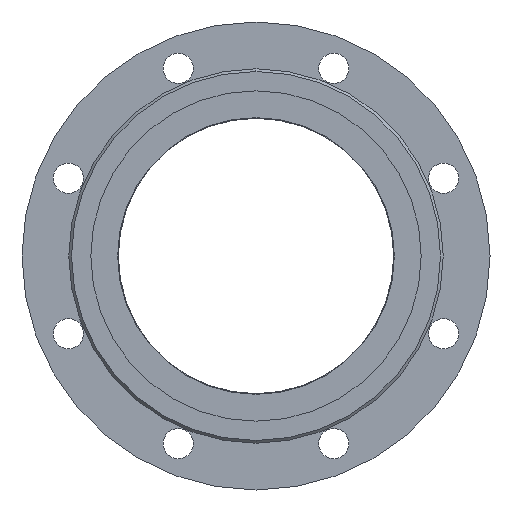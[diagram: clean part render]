
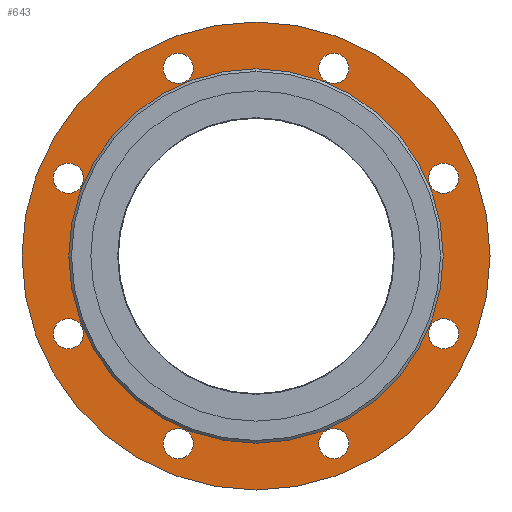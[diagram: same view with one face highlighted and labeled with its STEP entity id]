
A CAD part, left-side view. The second image highlights one B-rep face of the part: STEP entity #643.
In plain terms, the highlighted planar face has unit normal (-1, 0, 0).
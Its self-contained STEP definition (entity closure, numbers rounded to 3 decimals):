
#643=ADVANCED_FACE('',(#1273,#1274,#1275,#1276,#1277,#1278,#1279,#1280,#1281,#1282),#1283,.F.);
#1273=FACE_BOUND('',#2105,.T.);
#1274=FACE_BOUND('',#2106,.T.);
#1275=FACE_BOUND('',#2107,.T.);
#1276=FACE_BOUND('',#2108,.T.);
#1277=FACE_BOUND('',#2109,.T.);
#1278=FACE_BOUND('',#2110,.T.);
#1279=FACE_BOUND('',#2111,.T.);
#1280=FACE_BOUND('',#2112,.T.);
#1281=FACE_BOUND('',#2113,.T.);
#1282=FACE_OUTER_BOUND('',#2114,.T.);
#1283=PLANE('',#2115);
#2105=EDGE_LOOP('',(#3120,#3121));
#2106=EDGE_LOOP('',(#3122,#3123));
#2107=EDGE_LOOP('',(#3124,#3125));
#2108=EDGE_LOOP('',(#3126,#3127));
#2109=EDGE_LOOP('',(#3128,#3129));
#2110=EDGE_LOOP('',(#3130,#3131));
#2111=EDGE_LOOP('',(#3132,#3133));
#2112=EDGE_LOOP('',(#3134,#3135));
#2113=EDGE_LOOP('',(#3136,#3137));
#2114=EDGE_LOOP('',(#3138,#3139));
#2115=AXIS2_PLACEMENT_3D('',#3140,#3141,#3142);
#3120=ORIENTED_EDGE('',*,*,#4583,.T.);
#3121=ORIENTED_EDGE('',*,*,#4663,.T.);
#3122=ORIENTED_EDGE('',*,*,#4561,.T.);
#3123=ORIENTED_EDGE('',*,*,#4396,.T.);
#3124=ORIENTED_EDGE('',*,*,#4664,.T.);
#3125=ORIENTED_EDGE('',*,*,#4487,.T.);
#3126=ORIENTED_EDGE('',*,*,#4665,.T.);
#3127=ORIENTED_EDGE('',*,*,#4624,.T.);
#3128=ORIENTED_EDGE('',*,*,#4666,.T.);
#3129=ORIENTED_EDGE('',*,*,#4667,.T.);
#3130=ORIENTED_EDGE('',*,*,#4668,.T.);
#3131=ORIENTED_EDGE('',*,*,#4669,.T.);
#3132=ORIENTED_EDGE('',*,*,#4670,.T.);
#3133=ORIENTED_EDGE('',*,*,#4509,.T.);
#3134=ORIENTED_EDGE('',*,*,#4380,.T.);
#3135=ORIENTED_EDGE('',*,*,#4408,.T.);
#3136=ORIENTED_EDGE('',*,*,#4454,.T.);
#3137=ORIENTED_EDGE('',*,*,#4671,.T.);
#3138=ORIENTED_EDGE('',*,*,#4619,.F.);
#3139=ORIENTED_EDGE('',*,*,#4672,.F.);
#3140=CARTESIAN_POINT('',(5.0,0.0,0.));
#3141=DIRECTION('',(1.0,0.0,0.));
#3142=DIRECTION('',(0.,0.0,-1.0));
#4380=EDGE_CURVE('',#5089,#5093,#5095,.T.);
#4396=EDGE_CURVE('',#5123,#5121,#5124,.T.);
#4408=EDGE_CURVE('',#5093,#5089,#5141,.T.);
#4454=EDGE_CURVE('',#5214,#5218,#5220,.T.);
#4487=EDGE_CURVE('',#5275,#5273,#5276,.T.);
#4509=EDGE_CURVE('',#5315,#5313,#5316,.T.);
#4561=EDGE_CURVE('',#5121,#5123,#5397,.T.);
#4583=EDGE_CURVE('',#5434,#5432,#5435,.T.);
#4619=EDGE_CURVE('',#5488,#5491,#5492,.T.);
#4624=EDGE_CURVE('',#5500,#5498,#5501,.T.);
#4663=EDGE_CURVE('',#5432,#5434,#5555,.T.);
#4664=EDGE_CURVE('',#5273,#5275,#5556,.T.);
#4665=EDGE_CURVE('',#5498,#5500,#5557,.T.);
#4666=EDGE_CURVE('',#5558,#5559,#5560,.T.);
#4667=EDGE_CURVE('',#5559,#5558,#5561,.T.);
#4668=EDGE_CURVE('',#5562,#5563,#5564,.T.);
#4669=EDGE_CURVE('',#5563,#5562,#5565,.T.);
#4670=EDGE_CURVE('',#5313,#5315,#5566,.T.);
#4671=EDGE_CURVE('',#5218,#5214,#5567,.T.);
#4672=EDGE_CURVE('',#5491,#5488,#5568,.T.);
#5089=VERTEX_POINT('',#6096);
#5093=VERTEX_POINT('',#6101);
#5095=CIRCLE('',#6104,11.0);
#5121=VERTEX_POINT('',#6134);
#5123=VERTEX_POINT('',#6137);
#5124=CIRCLE('',#6138,11.0);
#5141=CIRCLE('',#6158,11.0);
#5214=VERTEX_POINT('',#6242);
#5218=VERTEX_POINT('',#6247);
#5220=CIRCLE('',#6250,11.0);
#5273=VERTEX_POINT('',#6317);
#5275=VERTEX_POINT('',#6320);
#5276=CIRCLE('',#6321,11.0);
#5313=VERTEX_POINT('',#6367);
#5315=VERTEX_POINT('',#6370);
#5316=CIRCLE('',#6371,11.0);
#5397=CIRCLE('',#6473,11.0);
#5432=VERTEX_POINT('',#6515);
#5434=VERTEX_POINT('',#6518);
#5435=CIRCLE('',#6519,100.0);
#5488=VERTEX_POINT('',#6584);
#5491=VERTEX_POINT('',#6588);
#5492=CIRCLE('',#6589,170.0);
#5498=VERTEX_POINT('',#6596);
#5500=VERTEX_POINT('',#6599);
#5501=CIRCLE('',#6600,11.0);
#5555=CIRCLE('',#6672,100.0);
#5556=CIRCLE('',#6673,11.0);
#5557=CIRCLE('',#6674,11.0);
#5558=VERTEX_POINT('',#6675);
#5559=VERTEX_POINT('',#6676);
#5560=CIRCLE('',#6677,11.0);
#5561=CIRCLE('',#6678,11.0);
#5562=VERTEX_POINT('',#6679);
#5563=VERTEX_POINT('',#6680);
#5564=CIRCLE('',#6681,11.0);
#5565=CIRCLE('',#6682,11.0);
#5566=CIRCLE('',#6683,11.0);
#5567=CIRCLE('',#6684,11.0);
#5568=CIRCLE('',#6685,170.0);
#6096=CARTESIAN_POINT('',(5.0,-136.272,-67.446));
#6101=CARTESIAN_POINT('',(5.0,-136.272,-45.446));
#6104=AXIS2_PLACEMENT_3D('',#7307,#7308,#7309);
#6134=CARTESIAN_POINT('',(5.0,136.272,45.446));
#6137=CARTESIAN_POINT('',(5.,136.272,67.446));
#6138=AXIS2_PLACEMENT_3D('',#7333,#7334,#7335);
#6158=AXIS2_PLACEMENT_3D('',#7351,#7352,#7353);
#6242=CARTESIAN_POINT('',(5.0,-56.446,-147.272));
#6247=CARTESIAN_POINT('',(5.,-56.446,-125.272));
#6250=AXIS2_PLACEMENT_3D('',#7433,#7434,#7435);
#6317=CARTESIAN_POINT('',(5.0,56.446,125.272));
#6320=CARTESIAN_POINT('',(5.,56.446,147.272));
#6321=AXIS2_PLACEMENT_3D('',#7472,#7473,#7474);
#6367=CARTESIAN_POINT('',(5.0,56.446,-147.272));
#6370=CARTESIAN_POINT('',(5.,56.446,-125.272));
#6371=AXIS2_PLACEMENT_3D('',#7506,#7507,#7508);
#6473=AXIS2_PLACEMENT_3D('',#7578,#7579,#7580);
#6515=CARTESIAN_POINT('',(5.,0.,-100.0));
#6518=CARTESIAN_POINT('',(5.,0.,100.0));
#6519=AXIS2_PLACEMENT_3D('',#7613,#7614,#7615);
#6584=CARTESIAN_POINT('',(5.,0.0,-170.0));
#6588=CARTESIAN_POINT('',(5.,0.,170.0));
#6589=AXIS2_PLACEMENT_3D('',#7671,#7672,#7673);
#6596=CARTESIAN_POINT('',(5.0,-136.272,45.446));
#6599=CARTESIAN_POINT('',(5.,-136.272,67.446));
#6600=AXIS2_PLACEMENT_3D('',#7679,#7680,#7681);
#6672=AXIS2_PLACEMENT_3D('',#7730,#7731,#7732);
#6673=AXIS2_PLACEMENT_3D('',#7733,#7734,#7735);
#6674=AXIS2_PLACEMENT_3D('',#7736,#7737,#7738);
#6675=CARTESIAN_POINT('',(5.0,-56.446,125.272));
#6676=CARTESIAN_POINT('',(5.,-56.446,147.272));
#6677=AXIS2_PLACEMENT_3D('',#7739,#7740,#7741);
#6678=AXIS2_PLACEMENT_3D('',#7742,#7743,#7744);
#6679=CARTESIAN_POINT('',(5.0,136.272,-67.446));
#6680=CARTESIAN_POINT('',(5.0,136.272,-45.446));
#6681=AXIS2_PLACEMENT_3D('',#7745,#7746,#7747);
#6682=AXIS2_PLACEMENT_3D('',#7748,#7749,#7750);
#6683=AXIS2_PLACEMENT_3D('',#7751,#7752,#7753);
#6684=AXIS2_PLACEMENT_3D('',#7754,#7755,#7756);
#6685=AXIS2_PLACEMENT_3D('',#7757,#7758,#7759);
#7307=CARTESIAN_POINT('',(5.0,-136.272,-56.446));
#7308=DIRECTION('',(1.0,0.0,0.));
#7309=DIRECTION('',(0.,0.0,-1.0));
#7333=CARTESIAN_POINT('',(5.0,136.272,56.446));
#7334=DIRECTION('',(1.0,0.0,0.));
#7335=DIRECTION('',(0.,0.0,-1.0));
#7351=CARTESIAN_POINT('',(5.0,-136.272,-56.446));
#7352=DIRECTION('',(1.0,0.0,0.));
#7353=DIRECTION('',(0.,0.0,-1.0));
#7433=CARTESIAN_POINT('',(5.,-56.446,-136.272));
#7434=DIRECTION('',(1.0,0.0,0.));
#7435=DIRECTION('',(0.,0.0,-1.0));
#7472=CARTESIAN_POINT('',(5.,56.446,136.272));
#7473=DIRECTION('',(1.0,0.0,0.));
#7474=DIRECTION('',(0.,0.0,-1.0));
#7506=CARTESIAN_POINT('',(5.,56.446,-136.272));
#7507=DIRECTION('',(1.0,0.0,0.));
#7508=DIRECTION('',(0.,0.0,-1.0));
#7578=CARTESIAN_POINT('',(5.0,136.272,56.446));
#7579=DIRECTION('',(1.0,0.0,0.));
#7580=DIRECTION('',(0.,0.0,-1.0));
#7613=CARTESIAN_POINT('',(5.0,0.0,0.));
#7614=DIRECTION('',(1.0,0.0,0.));
#7615=DIRECTION('',(0.,0.0,-1.0));
#7671=CARTESIAN_POINT('',(5.0,0.0,0.));
#7672=DIRECTION('',(1.0,0.0,0.));
#7673=DIRECTION('',(0.,0.0,-1.0));
#7679=CARTESIAN_POINT('',(5.0,-136.272,56.446));
#7680=DIRECTION('',(1.0,0.0,0.));
#7681=DIRECTION('',(0.,0.0,-1.0));
#7730=CARTESIAN_POINT('',(5.0,0.0,0.));
#7731=DIRECTION('',(1.0,0.0,0.));
#7732=DIRECTION('',(0.,0.0,-1.0));
#7733=CARTESIAN_POINT('',(5.,56.446,136.272));
#7734=DIRECTION('',(1.0,0.0,0.));
#7735=DIRECTION('',(0.,0.0,-1.0));
#7736=CARTESIAN_POINT('',(5.0,-136.272,56.446));
#7737=DIRECTION('',(1.0,0.0,0.));
#7738=DIRECTION('',(0.,0.0,-1.0));
#7739=CARTESIAN_POINT('',(5.,-56.446,136.272));
#7740=DIRECTION('',(1.0,0.0,0.));
#7741=DIRECTION('',(0.,0.0,-1.0));
#7742=CARTESIAN_POINT('',(5.,-56.446,136.272));
#7743=DIRECTION('',(1.0,0.0,0.));
#7744=DIRECTION('',(0.,0.0,-1.0));
#7745=CARTESIAN_POINT('',(5.0,136.272,-56.446));
#7746=DIRECTION('',(1.0,0.0,0.));
#7747=DIRECTION('',(0.,0.0,-1.0));
#7748=CARTESIAN_POINT('',(5.0,136.272,-56.446));
#7749=DIRECTION('',(1.0,0.0,0.));
#7750=DIRECTION('',(0.,0.0,-1.0));
#7751=CARTESIAN_POINT('',(5.,56.446,-136.272));
#7752=DIRECTION('',(1.0,0.0,0.));
#7753=DIRECTION('',(0.,0.0,-1.0));
#7754=CARTESIAN_POINT('',(5.,-56.446,-136.272));
#7755=DIRECTION('',(1.0,0.0,0.));
#7756=DIRECTION('',(0.,0.0,-1.0));
#7757=CARTESIAN_POINT('',(5.0,0.0,0.));
#7758=DIRECTION('',(1.0,0.0,0.));
#7759=DIRECTION('',(0.,0.0,-1.0));
